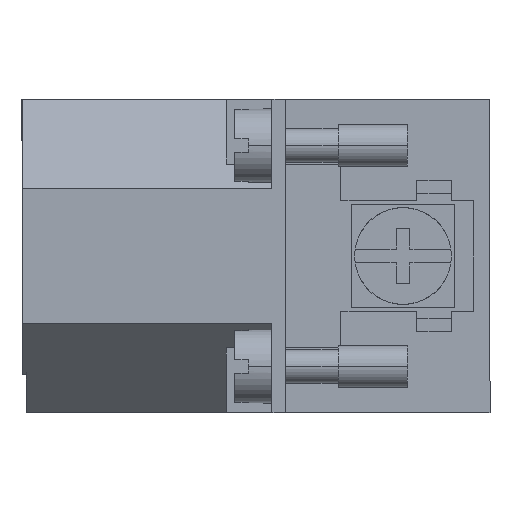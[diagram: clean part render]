
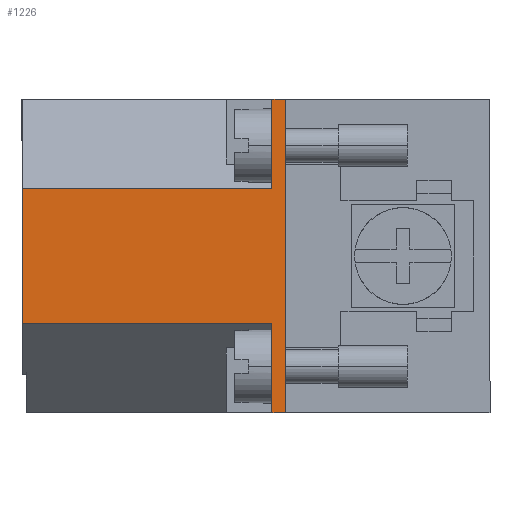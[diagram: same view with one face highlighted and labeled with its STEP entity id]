
A CAD part, left-side view. The second image highlights one B-rep face of the part: STEP entity #1226.
In plain terms, the highlighted planar face has unit normal (-1, 0, 0).
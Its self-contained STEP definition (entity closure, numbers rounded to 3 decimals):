
#642 = VECTOR ( 'NONE', #3122, 1000. ) ;
#659 = VECTOR ( 'NONE', #8149, 1000. ) ;
#684 = VERTEX_POINT ( 'NONE', #5878 ) ;
#1078 = PLANE ( 'NONE',  #4215 ) ;
#1116 = CARTESIAN_POINT ( 'NONE',  ( -28., -18.1, -11.35 ) ) ;
#1226 = ADVANCED_FACE ( 'NONE', ( #2686 ), #1078, .F. ) ;
#1277 = ORIENTED_EDGE ( 'NONE', *, *, #2376, .T. ) ;
#1439 = VERTEX_POINT ( 'NONE', #8115 ) ;
#1588 = CARTESIAN_POINT ( 'NONE',  ( -28., 0., 4.9 ) ) ;
#1596 = CARTESIAN_POINT ( 'NONE',  ( -28., -18.1, -11.35 ) ) ;
#1717 = VECTOR ( 'NONE', #12041, 1000. ) ;
#1733 = LINE ( 'NONE', #8391, #5210 ) ;
#1759 = VERTEX_POINT ( 'NONE', #6524 ) ;
#2010 = VECTOR ( 'NONE', #9610, 1000. ) ;
#2053 = EDGE_CURVE ( 'NONE', #1759, #10441, #3107, .T. ) ;
#2254 = CARTESIAN_POINT ( 'NONE',  ( -28., -19.1, -11.35 ) ) ;
#2376 = EDGE_CURVE ( 'NONE', #1439, #8405, #10848, .T. ) ;
#2447 = EDGE_CURVE ( 'NONE', #9093, #11098, #7023, .T. ) ;
#2533 = ORIENTED_EDGE ( 'NONE', *, *, #2053, .T. ) ;
#2686 = FACE_OUTER_BOUND ( 'NONE', #5059, .T. ) ;
#3046 = CARTESIAN_POINT ( 'NONE',  ( -28., 0., -4.9 ) ) ;
#3107 = LINE ( 'NONE', #1596, #659 ) ;
#3122 = DIRECTION ( 'NONE',  ( 0., -1., 0. ) ) ;
#3922 = LINE ( 'NONE', #8670, #2010 ) ;
#4215 = AXIS2_PLACEMENT_3D ( 'NONE', #9499, #5781, #10398 ) ;
#4569 = DIRECTION ( 'NONE',  ( 0., 0., 1. ) ) ;
#4683 = CARTESIAN_POINT ( 'NONE',  ( -28., -18.1, 11.35 ) ) ;
#4951 = CARTESIAN_POINT ( 'NONE',  ( -28., -18.1, 4.9 ) ) ;
#5059 = EDGE_LOOP ( 'NONE', ( #2533, #11837, #9412, #5488, #7841, #1277, #11085, #7506 ) ) ;
#5210 = VECTOR ( 'NONE', #4569, 1000. ) ;
#5345 = CARTESIAN_POINT ( 'NONE',  ( -28., 0., -4.9 ) ) ;
#5433 = CARTESIAN_POINT ( 'NONE',  ( -28., -18.1, -4.9 ) ) ;
#5488 = ORIENTED_EDGE ( 'NONE', *, *, #2447, .T. ) ;
#5516 = LINE ( 'NONE', #1588, #11355 ) ;
#5581 = EDGE_CURVE ( 'NONE', #11098, #1439, #6269, .T. ) ;
#5781 = DIRECTION ( 'NONE',  ( 1., 0., 0. ) ) ;
#5878 = CARTESIAN_POINT ( 'NONE',  ( -28., -19.1, 11.35 ) ) ;
#6105 = VERTEX_POINT ( 'NONE', #8876 ) ;
#6269 = LINE ( 'NONE', #9481, #8040 ) ;
#6298 = DIRECTION ( 'NONE',  ( 0., -1., 0. ) ) ;
#6524 = CARTESIAN_POINT ( 'NONE',  ( -28., -18.1, 11.35 ) ) ;
#7023 = LINE ( 'NONE', #3046, #642 ) ;
#7506 = ORIENTED_EDGE ( 'NONE', *, *, #11191, .T. ) ;
#7567 = DIRECTION ( 'NONE',  ( 0., 0., -1. ) ) ;
#7841 = ORIENTED_EDGE ( 'NONE', *, *, #5581, .T. ) ;
#8040 = VECTOR ( 'NONE', #7567, 1000. ) ;
#8115 = CARTESIAN_POINT ( 'NONE',  ( -28., -18.1, -11.35 ) ) ;
#8149 = DIRECTION ( 'NONE',  ( 0., 0., -1. ) ) ;
#8272 = LINE ( 'NONE', #4683, #1717 ) ;
#8363 = VECTOR ( 'NONE', #8441, 1000. ) ;
#8391 = CARTESIAN_POINT ( 'NONE',  ( -28., -19.1, -11.35 ) ) ;
#8405 = VERTEX_POINT ( 'NONE', #2254 ) ;
#8441 = DIRECTION ( 'NONE',  ( 0., -1., 0. ) ) ;
#8670 = CARTESIAN_POINT ( 'NONE',  ( -28., 0., 4.9 ) ) ;
#8876 = CARTESIAN_POINT ( 'NONE',  ( -28., 0., 4.9 ) ) ;
#9093 = VERTEX_POINT ( 'NONE', #5345 ) ;
#9412 = ORIENTED_EDGE ( 'NONE', *, *, #10914, .F. ) ;
#9481 = CARTESIAN_POINT ( 'NONE',  ( -28., -18.1, -11.35 ) ) ;
#9499 = CARTESIAN_POINT ( 'NONE',  ( -28., -19.1, 0. ) ) ;
#9610 = DIRECTION ( 'NONE',  ( 0., 0., 1. ) ) ;
#10398 = DIRECTION ( 'NONE',  ( 0., 1., 0. ) ) ;
#10441 = VERTEX_POINT ( 'NONE', #4951 ) ;
#10588 = EDGE_CURVE ( 'NONE', #6105, #10441, #5516, .T. ) ;
#10678 = EDGE_CURVE ( 'NONE', #8405, #684, #1733, .T. ) ;
#10848 = LINE ( 'NONE', #1116, #8363 ) ;
#10914 = EDGE_CURVE ( 'NONE', #9093, #6105, #3922, .T. ) ;
#11085 = ORIENTED_EDGE ( 'NONE', *, *, #10678, .T. ) ;
#11098 = VERTEX_POINT ( 'NONE', #5433 ) ;
#11191 = EDGE_CURVE ( 'NONE', #684, #1759, #8272, .T. ) ;
#11355 = VECTOR ( 'NONE', #6298, 1000. ) ;
#11837 = ORIENTED_EDGE ( 'NONE', *, *, #10588, .F. ) ;
#12041 = DIRECTION ( 'NONE',  ( 0., 1., 0. ) ) ;
